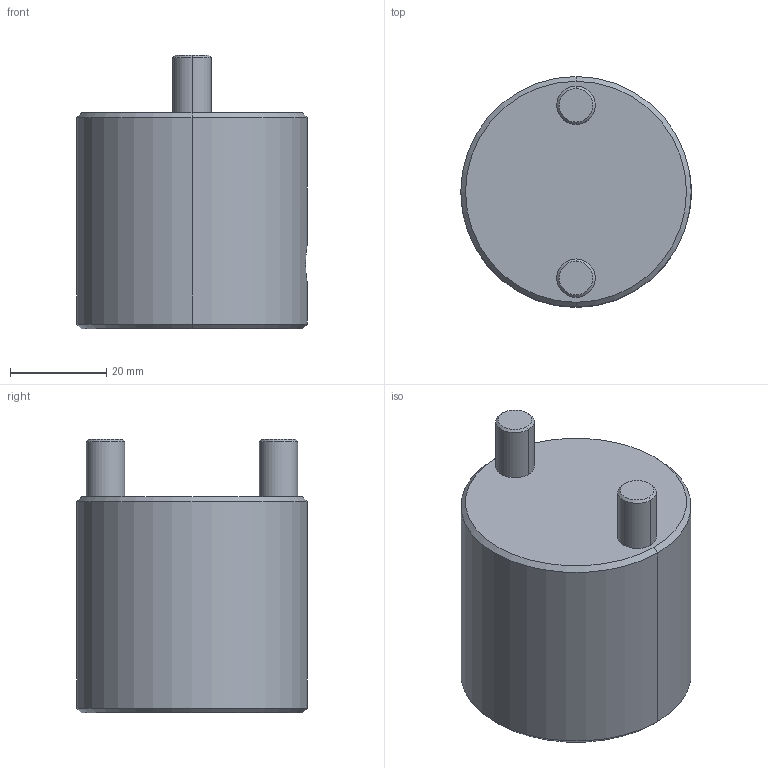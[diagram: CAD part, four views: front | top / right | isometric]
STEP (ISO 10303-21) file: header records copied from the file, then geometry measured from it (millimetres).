
FILE_DESCRIPTION((''),'2;1');
FILE_NAME('CS0725','2018-01-21T',('MANU'),(''),'PRO/ENGINEER BY PARAMETRIC TECHNOLOGY CORPORATION, 2012130','PRO/ENGINEER BY PARAMETRIC TECHNOLOGY CORPORATION, 2012130','');
FILE_SCHEMA(('CONFIG_CONTROL_DESIGN'));
Length unit declared in the file: millimetre
Products named in the file (1): CS0725
Bounding box: 48 x 48 x 57 mm (x, y, z)
Volume: 63334.8 mm3; surface area: 14025 mm2
Topology: 1 solids, 1 shells, 23 faces, 47 edges, 28 vertices
Faces by surface type: cylinder 10, cone 8, plane 5
Entity records: 755 total; most frequent: CARTESIAN_POINT 220, DIRECTION 109, ORIENTED_EDGE 94, EDGE_CURVE 47, AXIS2_PLACEMENT_3D 45, VERTEX_POINT 28, EDGE_LOOP 27, FACE_OUTER_BOUND 23
